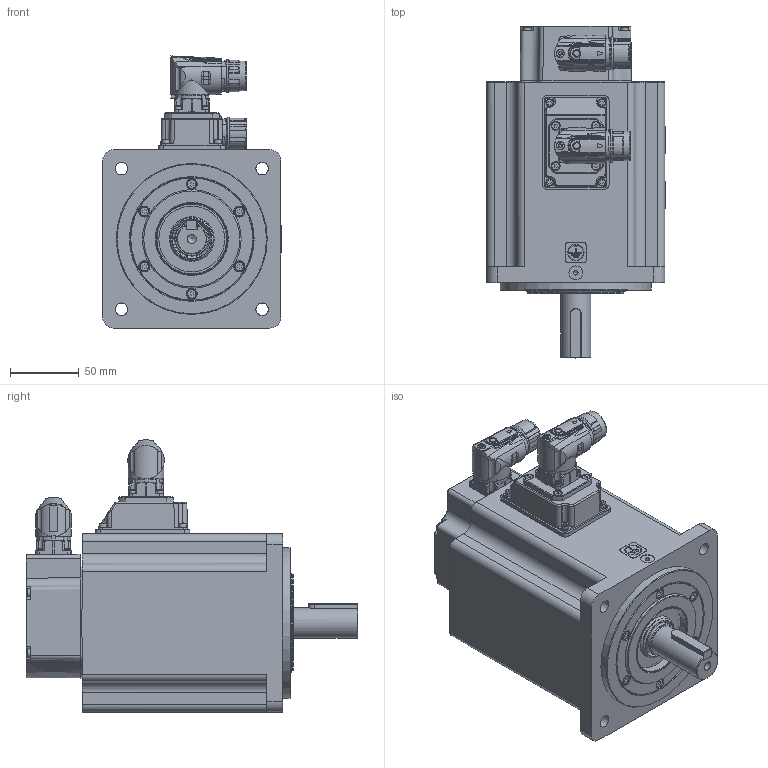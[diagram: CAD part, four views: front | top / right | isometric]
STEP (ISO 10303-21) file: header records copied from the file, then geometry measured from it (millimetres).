
FILE_DESCRIPTION( ( 'Unknown' ), '1' );
FILE_NAME( 'U:/05_Progetto TCE/010-TCE motor drawings/TCE130/Vuoti/TCE130 5H XX 3 A2 0 C2.stp', 'Unknown', ( 'Unknown' ), ( 'Unknown' ), 'PSStep 17.0.49', 'Unknown', ' ' );
FILE_SCHEMA( ( 'AUTOMOTIVE_DESIGN { 1 0 10303 214 1 1 1 1 }' ) );
Length unit declared in the file: millimetre
Products named in the file (13): 005123001528
Bounding box: 130.3 x 242 x 198.5 mm (x, y, z)
Volume: 1093384.9 mm3; surface area: 327036.8 mm2
Topology: 17 solids, 91 shells, 2936 faces, 7314 edges, 4717 vertices
Faces by surface type: plane 1419, cylinder 708, cone 292, bspline 231, torus 167, sphere 81, extrusion 38
Full cylindrical faces by diameter (mm): 0.5 x1, 1 x21, 1.2 x17, 1.4 x4, 2 x4, 2.013 x4, 2.2 x2, 2.459 x24, 2.5 x8, 2.6 x4, 2.8 x4, 3 x28, 3.242 x24, 3.5 x8, 4 x15, 4.134 x16, 4.4 x4, 4.5 x8, 4.7 x4, 5 x8, 5.5 x18, 5.8 x1, 5.9 x2, 6.647 x2, 6.8 x1, 7 x10, 8 x13, 8.5 x8, 10 x1, 10.5 x8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
Entity records: 120825 total; most frequent: CARTESIAN_POINT 36653, DIRECTION 12872, ORIENTED_EDGE 12544, EDGE_CURVE 6272, AXIS2_PLACEMENT_3D 4840, VERTEX_POINT 4449, EDGE_LOOP 3907, FACE_OUTER_BOUND 3399
